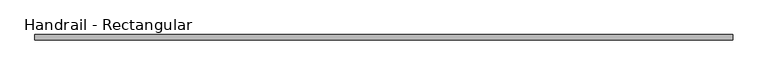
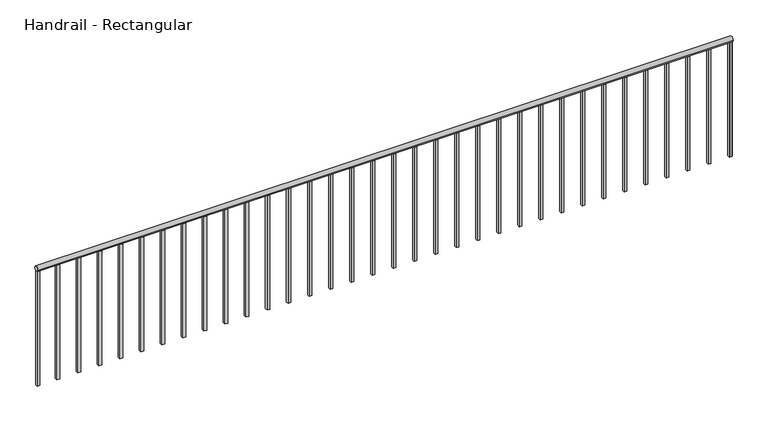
"""IFC4 building model written with IfcOpenShell, lengths in millimetres: railing geometry, Handrail - Rectangular."""

import ifcopenshell
import ifcopenshell.guid

model = None  # the IFC model being written
_history = None  # IfcOwnerHistory: only IFC2X3 demands one
_inside = {}  # id of a spatial element -> (the spatial element, [elements in it])
_under = {}  # id of a project, library or spatial element -> (it, [spatial elements below it])
_declared = {}  # id of a project -> (the project, [libraries it declares])
_typed = {}  # id of a type object -> (the type object, [elements of that type])
_made_of = {}  # id of a material, layer set ... -> (it, [elements and type objects made of it])


def new_model(schema):
    """Start an empty IFC model of exactly this schema.

    Asked for "IFC4X3", IfcOpenShell would pick the latest addendum, in which some entities
    have other attributes; the version numbers below select the first issue.
    IFC2X3 requires an IfcOwnerHistory on every rooted entity: one is made here for all.
    """
    global model, _history
    if schema == "IFC4X3":
        model = ifcopenshell.file(schema_version=(4, 3, 0, 0))
    else:
        model = ifcopenshell.file(schema=schema)
    _inside.clear()
    _under.clear()
    _declared.clear()
    _typed.clear()
    _made_of.clear()
    _history = None
    if model.schema == "IFC2X3":
        org = make("IfcOrganization", Name="unknown")
        user = make(
            "IfcPersonAndOrganization",
            ThePerson=make("IfcPerson", FamilyName="unknown"),
            TheOrganization=org,
        )
        app = make(
            "IfcApplication",
            ApplicationDeveloper=org,
            Version="unknown",
            ApplicationFullName="unknown",
            ApplicationIdentifier="unknown",
        )
        _history = make(
            "IfcOwnerHistory",
            OwningUser=user,
            OwningApplication=app,
            ChangeAction="ADDED",
            CreationDate=0,
        )
    return model


def make(cls, **values):
    """One entity of the class cls with the attributes given. An attribute that is None is left unset."""
    return model.create_entity(
        cls, **{name: value for name, value in values.items() if value is not None}
    )


def rooted(cls, **values):
    """An entity with a GlobalId (a new one), such as an element, a storey or a relation."""
    return make(cls, GlobalId=ifcopenshell.guid.new(), OwnerHistory=_history, **values)


def si_unit(unit_type, name, prefix=None):
    """IfcSIUnit, for example si_unit("LENGTHUNIT", "METRE", prefix="MILLI")."""
    return make("IfcSIUnit", UnitType=unit_type, Prefix=prefix, Name=name)


def assignment(units):
    """IfcUnitAssignment: the units of a project."""
    return None if units is None else make("IfcUnitAssignment", Units=units)


def point(xyz):
    """IfcCartesianPoint."""
    return None if xyz is None else make("IfcCartesianPoint", Coordinates=xyz)


def direction(xyz):
    """IfcDirection."""
    return None if xyz is None else make("IfcDirection", DirectionRatios=xyz)


def frame(location, z_axis=None, x_axis=None):
    """IfcAxis2Placement3D, a coordinate frame: its origin and axes. An axis left out is left unset."""
    return make(
        "IfcAxis2Placement3D",
        Location=point(location),
        Axis=direction(z_axis),
        RefDirection=direction(x_axis),
    )


def frame_2d(location, x_axis=None):
    """IfcAxis2Placement2D, a coordinate frame in the plane: its origin and x axis."""
    return make(
        "IfcAxis2Placement2D", Location=point(location), RefDirection=direction(x_axis)
    )


def origin():
    """The frame at (0, 0, 0) with its axes left unset."""
    return frame((0.0, 0.0, 0.0))


def place(relative_to, where):
    """IfcLocalPlacement: puts the frame where relative to a parent placement (None: the world)."""
    return make(
        "IfcLocalPlacement", PlacementRelTo=relative_to, RelativePlacement=where
    )


def context(
    kind, dimensions, precision=None, world=None, true_north=None, identifier=None
):
    """IfcGeometricRepresentationContext, for example the 3D "Model" context."""
    return make(
        "IfcGeometricRepresentationContext",
        ContextIdentifier=identifier,
        ContextType=kind,
        CoordinateSpaceDimension=dimensions,
        Precision=precision,
        WorldCoordinateSystem=world,
        TrueNorth=true_north,
    )


def project(units=None, contexts=None):
    """IfcProject with its units and contexts."""
    return rooted(
        "IfcProject",
        Name="project",
        RepresentationContexts=contexts,
        UnitsInContext=assignment(units),
    )


def spatial(cls, under=None, at=None, **own):
    """A site, building, storey or space (cls), placed at a placement, below another one or the project."""
    s = rooted(cls, ObjectPlacement=at, **own)
    if under is not None:
        _under.setdefault(under.id(), (under, []))[1].append(s)
    return s


def polyline(points):
    """IfcPolyline through the points."""
    return make("IfcPolyline", Points=[point(p) for p in points])


def circle_curve(where, radius):
    """IfcCircle in the frame where."""
    return make("IfcCircle", Position=where, Radius=radius)


def trimmed(basis, trim1, trim2, sense, master):
    """IfcTrimmedCurve: the piece of a basis curve between two trims."""
    return make(
        "IfcTrimmedCurve",
        BasisCurve=basis,
        Trim1=trim1,
        Trim2=trim2,
        SenseAgreement=sense,
        MasterRepresentation=master,
    )


def segment(curve, same_sense, transition):
    """IfcCompositeCurveSegment."""
    return make(
        "IfcCompositeCurveSegment",
        Transition=transition,
        SameSense=same_sense,
        ParentCurve=curve,
    )


def composite_curve(segments, self_intersect=None):
    """IfcCompositeCurve: segments joined end to end."""
    return make("IfcCompositeCurve", Segments=segments, SelfIntersect=self_intersect)


def outline(outer, holes=None, kind="AREA"):
    """IfcArbitraryClosedProfileDef: a profile drawn as a closed curve; with holes, ...WithVoids."""
    if holes is None:
        return make("IfcArbitraryClosedProfileDef", ProfileType=kind, OuterCurve=outer)
    return make(
        "IfcArbitraryProfileDefWithVoids",
        ProfileType=kind,
        OuterCurve=outer,
        InnerCurves=holes,
    )


def extrude(swept, where, along, depth):
    """IfcExtrudedAreaSolid: the profile swept, set in the frame where, extruded along a direction by depth."""
    return make(
        "IfcExtrudedAreaSolid",
        SweptArea=swept,
        Position=where,
        ExtrudedDirection=direction(along),
        Depth=depth,
    )


def shape(context_of_items, identifier, shape_type, items):
    """IfcShapeRepresentation: the items that make up one representation, for example the "Body"."""
    return make(
        "IfcShapeRepresentation",
        ContextOfItems=context_of_items,
        RepresentationIdentifier=identifier,
        RepresentationType=shape_type,
        Items=items,
    )


def source(mapping_origin, context_of_items, identifier, shape_type, items):
    """IfcRepresentationMap: a shape defined once, which mapped items show again and again."""
    return make(
        "IfcRepresentationMap",
        MappingOrigin=mapping_origin,
        MappedRepresentation=shape(context_of_items, identifier, shape_type, items),
    )


def transform(
    local_origin,
    x_axis=None,
    y_axis=None,
    z_axis=None,
    scale=None,
    scale2=None,
    scale3=None,
    uniform=True,
):
    """IfcCartesianTransformationOperator3D, or its non-uniform kind. x_axis, y_axis, z_axis: its Axis1, 2, 3."""
    if uniform:
        return make(
            "IfcCartesianTransformationOperator3D",
            Axis1=direction(x_axis),
            Axis2=direction(y_axis),
            LocalOrigin=point(local_origin),
            Scale=scale,
            Axis3=direction(z_axis),
        )
    return make(
        "IfcCartesianTransformationOperator3DnonUniform",
        Axis1=direction(x_axis),
        Axis2=direction(y_axis),
        LocalOrigin=point(local_origin),
        Scale=scale,
        Axis3=direction(z_axis),
        Scale2=scale2,
        Scale3=scale3,
    )


def mapped(mapping_source, mapping_target):
    """IfcMappedItem: shows the shape of a source again, moved by a transform."""
    return make(
        "IfcMappedItem", MappingSource=mapping_source, MappingTarget=mapping_target
    )


def made_of(thing, what):
    """Note that an element or type object is made of a material, layer set ...; save() writes the relation."""
    if what is not None:
        _made_of.setdefault(what.id(), (what, []))[1].append(thing)
    return thing


def element(
    cls,
    number,
    at=None,
    inside=None,
    cuts=None,
    type_object=None,
    material=None,
    context=None,
    identifier="Body",
    shape_type=None,
    held_by="IfcProductDefinitionShape",
    body=None,
    shapes=None,
    **own,
):
    """One element of the class cls, such as IfcWall. Its Tag is "e" and its number.

    at: its placement. inside: the storey or other place that contains it. cuts: it is an
    opening in that element (IfcRelVoidsElement). A single representation is given by context,
    identifier, shape_type and body (its items); several are given by shapes. held_by: the class
    of the entity that holds the representations. save() writes the other relations.
    """
    e = rooted(cls, Tag="e%d" % number, ObjectPlacement=at, **own)
    if body is not None:
        shapes = [shape(context, identifier, shape_type, body)]
    if shapes is not None:
        e.Representation = make(held_by, Representations=shapes)
    if inside is not None:
        _inside.setdefault(inside.id(), (inside, []))[1].append(e)
    if cuts is not None:
        rooted(
            "IfcRelVoidsElement", RelatingBuildingElement=cuts, RelatedOpeningElement=e
        )
    if type_object is not None:
        _typed.setdefault(type_object.id(), (type_object, []))[1].append(e)
    return made_of(e, material)


def aggregate(whole, parts):
    """IfcRelAggregates: a whole, such as a stair, and the parts it consists of."""
    return rooted("IfcRelAggregates", RelatingObject=whole, RelatedObjects=parts)


def save(model, path):
    """Write the relations noted so far, then the file.

    IfcRelAggregates (storeys below a building ...), IfcRelContainedInSpatialStructure (elements
    in a storey), IfcRelDefinesByType, IfcRelAssociatesMaterial and IfcRelDeclares: one each for
    every whole, place, type object, material and project.
    """
    for whole, parts in _under.values():
        aggregate(whole, parts)
    for where, things in _inside.values():
        rooted(
            "IfcRelContainedInSpatialStructure",
            RelatedElements=things,
            RelatingStructure=where,
        )
    for kind, things in _typed.values():
        rooted("IfcRelDefinesByType", RelatedObjects=things, RelatingType=kind)
    for what, things in _made_of.values():
        rooted("IfcRelAssociatesMaterial", RelatedObjects=things, RelatingMaterial=what)
    for by, libraries in _declared.values():
        rooted("IfcRelDeclares", RelatingContext=by, RelatedDefinitions=libraries)
    model.write(path)


def handrail_rectangular_940b1af8(model_context):
    return source(origin(), model_context, "Body", "SweptSolid", [
        extrude(outline(composite_curve([segment(trimmed(circle_curve(frame_2d((-35553.1683133, 10039.35)), 19.05), [point((-35572.2183133, 10039.35))], [point((-35534.1183133, 10039.35))], False, "CARTESIAN"), True, "CONTINUOUS"), segment(trimmed(circle_curve(frame_2d((-35553.1683133, 10039.35)), 19.05), [point((-35534.1183133, 10039.35))], [point((-35572.2183133, 10039.35))], False, "CARTESIAN"), True, "CONTINUOUS")], self_intersect=False)), frame((-11164.8589563, 0.0, 0.0), z_axis=(1.0, 0.0, 0.0), x_axis=(0.0, 1.0, 0.0)), (0.0, 0.0, 1.0), 5041.9),
        extrude(outline(polyline([(-6145.1839563, -35543.6433133), (-6126.1339563, -35543.6433133), (-6126.1339563, -35562.6933133), (-6145.1839563, -35562.6933133), (-6145.1839563, -35543.6433133)])), frame((0.0, 0.0, 9144.0), z_axis=(0.0, 0.0, 1.0), x_axis=(1.0, 0.0, 0.0)), (0.0, 0.0, 1.0), 876.3),
        extrude(outline(polyline([(-6297.5839563, -35543.6433133), (-6278.5339563, -35543.6433133), (-6278.5339563, -35562.6933133), (-6297.5839563, -35562.6933133), (-6297.5839563, -35543.6433133)])), frame((0.0, 0.0, 9144.0), z_axis=(0.0, 0.0, 1.0), x_axis=(1.0, 0.0, 0.0)), (0.0, 0.0, 1.0), 876.3),
        extrude(outline(polyline([(-6449.9839563, -35543.6433133), (-6430.9339563, -35543.6433133), (-6430.9339563, -35562.6933133), (-6449.9839563, -35562.6933133), (-6449.9839563, -35543.6433133)])), frame((0.0, 0.0, 9144.0), z_axis=(0.0, 0.0, 1.0), x_axis=(1.0, 0.0, 0.0)), (0.0, 0.0, 1.0), 876.3),
        extrude(outline(polyline([(-6602.3839563, -35543.6433133), (-6583.3339563, -35543.6433133), (-6583.3339563, -35562.6933133), (-6602.3839563, -35562.6933133), (-6602.3839563, -35543.6433133)])), frame((0.0, 0.0, 9144.0), z_axis=(0.0, 0.0, 1.0), x_axis=(1.0, 0.0, 0.0)), (0.0, 0.0, 1.0), 876.3),
        extrude(outline(polyline([(-6754.7839563, -35543.6433133), (-6735.7339563, -35543.6433133), (-6735.7339563, -35562.6933133), (-6754.7839563, -35562.6933133), (-6754.7839563, -35543.6433133)])), frame((0.0, 0.0, 9144.0), z_axis=(0.0, 0.0, 1.0), x_axis=(1.0, 0.0, 0.0)), (0.0, 0.0, 1.0), 876.3),
        extrude(outline(polyline([(-6907.1839563, -35543.6433133), (-6888.1339563, -35543.6433133), (-6888.1339563, -35562.6933133), (-6907.1839563, -35562.6933133), (-6907.1839563, -35543.6433133)])), frame((0.0, 0.0, 9144.0), z_axis=(0.0, 0.0, 1.0), x_axis=(1.0, 0.0, 0.0)), (0.0, 0.0, 1.0), 876.3),
        extrude(outline(polyline([(-7059.5839563, -35543.6433133), (-7040.5339563, -35543.6433133), (-7040.5339563, -35562.6933133), (-7059.5839563, -35562.6933133), (-7059.5839563, -35543.6433133)])), frame((0.0, 0.0, 9144.0), z_axis=(0.0, 0.0, 1.0), x_axis=(1.0, 0.0, 0.0)), (0.0, 0.0, 1.0), 876.3),
        extrude(outline(polyline([(-7211.9839563, -35543.6433133), (-7192.9339563, -35543.6433133), (-7192.9339563, -35562.6933133), (-7211.9839563, -35562.6933133), (-7211.9839563, -35543.6433133)])), frame((0.0, 0.0, 9144.0), z_axis=(0.0, 0.0, 1.0), x_axis=(1.0, 0.0, 0.0)), (0.0, 0.0, 1.0), 876.3),
        extrude(outline(polyline([(-7364.3839563, -35543.6433133), (-7345.3339563, -35543.6433133), (-7345.3339563, -35562.6933133), (-7364.3839563, -35562.6933133), (-7364.3839563, -35543.6433133)])), frame((0.0, 0.0, 9144.0), z_axis=(0.0, 0.0, 1.0), x_axis=(1.0, 0.0, 0.0)), (0.0, 0.0, 1.0), 876.3),
        extrude(outline(polyline([(-7516.7839563, -35543.6433133), (-7497.7339563, -35543.6433133), (-7497.7339563, -35562.6933133), (-7516.7839563, -35562.6933133), (-7516.7839563, -35543.6433133)])), frame((0.0, 0.0, 9144.0), z_axis=(0.0, 0.0, 1.0), x_axis=(1.0, 0.0, 0.0)), (0.0, 0.0, 1.0), 876.3),
        extrude(outline(polyline([(-7669.1839563, -35543.6433133), (-7650.1339563, -35543.6433133), (-7650.1339563, -35562.6933133), (-7669.1839563, -35562.6933133), (-7669.1839563, -35543.6433133)])), frame((0.0, 0.0, 9144.0), z_axis=(0.0, 0.0, 1.0), x_axis=(1.0, 0.0, 0.0)), (0.0, 0.0, 1.0), 876.3),
        extrude(outline(polyline([(-7821.5839563, -35543.6433133), (-7802.5339563, -35543.6433133), (-7802.5339563, -35562.6933133), (-7821.5839563, -35562.6933133), (-7821.5839563, -35543.6433133)])), frame((0.0, 0.0, 9144.0), z_axis=(0.0, 0.0, 1.0), x_axis=(1.0, 0.0, 0.0)), (0.0, 0.0, 1.0), 876.3),
        extrude(outline(polyline([(-7973.9839563, -35543.6433133), (-7954.9339563, -35543.6433133), (-7954.9339563, -35562.6933133), (-7973.9839563, -35562.6933133), (-7973.9839563, -35543.6433133)])), frame((0.0, 0.0, 9144.0), z_axis=(0.0, 0.0, 1.0), x_axis=(1.0, 0.0, 0.0)), (0.0, 0.0, 1.0), 876.3),
        extrude(outline(polyline([(-8126.3839563, -35543.6433133), (-8107.3339563, -35543.6433133), (-8107.3339563, -35562.6933133), (-8126.3839563, -35562.6933133), (-8126.3839563, -35543.6433133)])), frame((0.0, 0.0, 9144.0), z_axis=(0.0, 0.0, 1.0), x_axis=(1.0, 0.0, 0.0)), (0.0, 0.0, 1.0), 876.3),
        extrude(outline(polyline([(-8278.7839563, -35543.6433133), (-8259.7339563, -35543.6433133), (-8259.7339563, -35562.6933133), (-8278.7839563, -35562.6933133), (-8278.7839563, -35543.6433133)])), frame((0.0, 0.0, 9144.0), z_axis=(0.0, 0.0, 1.0), x_axis=(1.0, 0.0, 0.0)), (0.0, 0.0, 1.0), 876.3),
        extrude(outline(polyline([(-8431.1839563, -35543.6433133), (-8412.1339563, -35543.6433133), (-8412.1339563, -35562.6933133), (-8431.1839563, -35562.6933133), (-8431.1839563, -35543.6433133)])), frame((0.0, 0.0, 9144.0), z_axis=(0.0, 0.0, 1.0), x_axis=(1.0, 0.0, 0.0)), (0.0, 0.0, 1.0), 876.3),
        extrude(outline(polyline([(-8583.5839563, -35543.6433133), (-8564.5339563, -35543.6433133), (-8564.5339563, -35562.6933133), (-8583.5839563, -35562.6933133), (-8583.5839563, -35543.6433133)])), frame((0.0, 0.0, 9144.0), z_axis=(0.0, 0.0, 1.0), x_axis=(1.0, 0.0, 0.0)), (0.0, 0.0, 1.0), 876.3),
        extrude(outline(polyline([(-8735.9839563, -35543.6433133), (-8716.9339563, -35543.6433133), (-8716.9339563, -35562.6933133), (-8735.9839563, -35562.6933133), (-8735.9839563, -35543.6433133)])), frame((0.0, 0.0, 9144.0), z_axis=(0.0, 0.0, 1.0), x_axis=(1.0, 0.0, 0.0)), (0.0, 0.0, 1.0), 876.3),
        extrude(outline(polyline([(-8888.3839563, -35543.6433133), (-8869.3339563, -35543.6433133), (-8869.3339563, -35562.6933133), (-8888.3839563, -35562.6933133), (-8888.3839563, -35543.6433133)])), frame((0.0, 0.0, 9144.0), z_axis=(0.0, 0.0, 1.0), x_axis=(1.0, 0.0, 0.0)), (0.0, 0.0, 1.0), 876.3),
        extrude(outline(polyline([(-9040.7839563, -35543.6433133), (-9021.7339563, -35543.6433133), (-9021.7339563, -35562.6933133), (-9040.7839563, -35562.6933133), (-9040.7839563, -35543.6433133)])), frame((0.0, 0.0, 9144.0), z_axis=(0.0, 0.0, 1.0), x_axis=(1.0, 0.0, 0.0)), (0.0, 0.0, 1.0), 876.3),
        extrude(outline(polyline([(-9193.1839563, -35543.6433133), (-9174.1339563, -35543.6433133), (-9174.1339563, -35562.6933133), (-9193.1839563, -35562.6933133), (-9193.1839563, -35543.6433133)])), frame((0.0, 0.0, 9144.0), z_axis=(0.0, 0.0, 1.0), x_axis=(1.0, 0.0, 0.0)), (0.0, 0.0, 1.0), 876.3),
        extrude(outline(polyline([(-9345.5839563, -35543.6433133), (-9326.5339563, -35543.6433133), (-9326.5339563, -35562.6933133), (-9345.5839563, -35562.6933133), (-9345.5839563, -35543.6433133)])), frame((0.0, 0.0, 9144.0), z_axis=(0.0, 0.0, 1.0), x_axis=(1.0, 0.0, 0.0)), (0.0, 0.0, 1.0), 876.3),
        extrude(outline(polyline([(-9497.9839563, -35543.6433133), (-9478.9339563, -35543.6433133), (-9478.9339563, -35562.6933133), (-9497.9839563, -35562.6933133), (-9497.9839563, -35543.6433133)])), frame((0.0, 0.0, 9144.0), z_axis=(0.0, 0.0, 1.0), x_axis=(1.0, 0.0, 0.0)), (0.0, 0.0, 1.0), 876.3),
        extrude(outline(polyline([(-9650.3839563, -35543.6433133), (-9631.3339563, -35543.6433133), (-9631.3339563, -35562.6933133), (-9650.3839563, -35562.6933133), (-9650.3839563, -35543.6433133)])), frame((0.0, 0.0, 9144.0), z_axis=(0.0, 0.0, 1.0), x_axis=(1.0, 0.0, 0.0)), (0.0, 0.0, 1.0), 876.3),
        extrude(outline(polyline([(-9802.7839563, -35543.6433133), (-9783.7339563, -35543.6433133), (-9783.7339563, -35562.6933133), (-9802.7839563, -35562.6933133), (-9802.7839563, -35543.6433133)])), frame((0.0, 0.0, 9144.0), z_axis=(0.0, 0.0, 1.0), x_axis=(1.0, 0.0, 0.0)), (0.0, 0.0, 1.0), 876.3),
        extrude(outline(polyline([(-9955.1839563, -35543.6433133), (-9936.1339563, -35543.6433133), (-9936.1339563, -35562.6933133), (-9955.1839563, -35562.6933133), (-9955.1839563, -35543.6433133)])), frame((0.0, 0.0, 9144.0), z_axis=(0.0, 0.0, 1.0), x_axis=(1.0, 0.0, 0.0)), (0.0, 0.0, 1.0), 876.3),
        extrude(outline(polyline([(-10107.5839563, -35543.6433133), (-10088.5339563, -35543.6433133), (-10088.5339563, -35562.6933133), (-10107.5839563, -35562.6933133), (-10107.5839563, -35543.6433133)])), frame((0.0, 0.0, 9144.0), z_axis=(0.0, 0.0, 1.0), x_axis=(1.0, 0.0, 0.0)), (0.0, 0.0, 1.0), 876.3),
        extrude(outline(polyline([(-10259.9839563, -35543.6433133), (-10240.9339563, -35543.6433133), (-10240.9339563, -35562.6933133), (-10259.9839563, -35562.6933133), (-10259.9839563, -35543.6433133)])), frame((0.0, 0.0, 9144.0), z_axis=(0.0, 0.0, 1.0), x_axis=(1.0, 0.0, 0.0)), (0.0, 0.0, 1.0), 876.3),
        extrude(outline(polyline([(-10412.3839563, -35543.6433133), (-10393.3339563, -35543.6433133), (-10393.3339563, -35562.6933133), (-10412.3839563, -35562.6933133), (-10412.3839563, -35543.6433133)])), frame((0.0, 0.0, 9144.0), z_axis=(0.0, 0.0, 1.0), x_axis=(1.0, 0.0, 0.0)), (0.0, 0.0, 1.0), 876.3),
        extrude(outline(polyline([(-10564.7839563, -35543.6433133), (-10545.7339563, -35543.6433133), (-10545.7339563, -35562.6933133), (-10564.7839563, -35562.6933133), (-10564.7839563, -35543.6433133)])), frame((0.0, 0.0, 9144.0), z_axis=(0.0, 0.0, 1.0), x_axis=(1.0, 0.0, 0.0)), (0.0, 0.0, 1.0), 876.3),
        extrude(outline(polyline([(-10717.1839563, -35543.6433133), (-10698.1339563, -35543.6433133), (-10698.1339563, -35562.6933133), (-10717.1839563, -35562.6933133), (-10717.1839563, -35543.6433133)])), frame((0.0, 0.0, 9144.0), z_axis=(0.0, 0.0, 1.0), x_axis=(1.0, 0.0, 0.0)), (0.0, 0.0, 1.0), 876.3),
        extrude(outline(polyline([(-10869.5839563, -35543.6433133), (-10850.5339563, -35543.6433133), (-10850.5339563, -35562.6933133), (-10869.5839563, -35562.6933133), (-10869.5839563, -35543.6433133)])), frame((0.0, 0.0, 9144.0), z_axis=(0.0, 0.0, 1.0), x_axis=(1.0, 0.0, 0.0)), (0.0, 0.0, 1.0), 876.3),
        extrude(outline(polyline([(-11021.9839563, -35543.6433133), (-11002.9339563, -35543.6433133), (-11002.9339563, -35562.6933133), (-11021.9839563, -35562.6933133), (-11021.9839563, -35543.6433133)])), frame((0.0, 0.0, 9144.0), z_axis=(0.0, 0.0, 1.0), x_axis=(1.0, 0.0, 0.0)), (0.0, 0.0, 1.0), 876.3),
        extrude(outline(polyline([(-6142.0089563, -35543.6433133), (-6122.9589563, -35543.6433133), (-6122.9589563, -35562.6933133), (-6142.0089563, -35562.6933133), (-6142.0089563, -35543.6433133)])), frame((0.0, 0.0, 9144.0), z_axis=(0.0, 0.0, 1.0), x_axis=(1.0, 0.0, 0.0)), (0.0, 0.0, 1.0), 876.3),
        extrude(outline(polyline([(-11164.8589563, -35543.6433133), (-11145.8089563, -35543.6433133), (-11145.8089563, -35562.6933133), (-11164.8589563, -35562.6933133), (-11164.8589563, -35543.6433133)])), frame((0.0, 0.0, 9144.0), z_axis=(0.0, 0.0, 1.0), x_axis=(1.0, 0.0, 0.0)), (0.0, 0.0, 1.0), 876.3),
    ])


if __name__ == "__main__":
    model = new_model("IFC4")
    model_context = context("Model", 3, world=origin())
    ifc_project = project(units=[si_unit("LENGTHUNIT", "METRE", prefix="MILLI")], contexts=[model_context])
    site = spatial("IfcSite", under=ifc_project)
    building = spatial("IfcBuilding", under=site)
    placement = place(None, origin())
    handrail_rectangular_shape = handrail_rectangular_940b1af8(model_context)
    element("IfcRailing", 1, ObjectType="Handrail - Rectangular", at=placement, inside=building, context=model_context, shape_type="MappedRepresentation", body=[
        mapped(handrail_rectangular_shape, transform((0.0, 0.0, 0.0), x_axis=(1.0, 0.0, 0.0), y_axis=(0.0, 1.0, 0.0), z_axis=(0.0, 0.0, 1.0))),
    ])
    save(model, "model.ifc")
